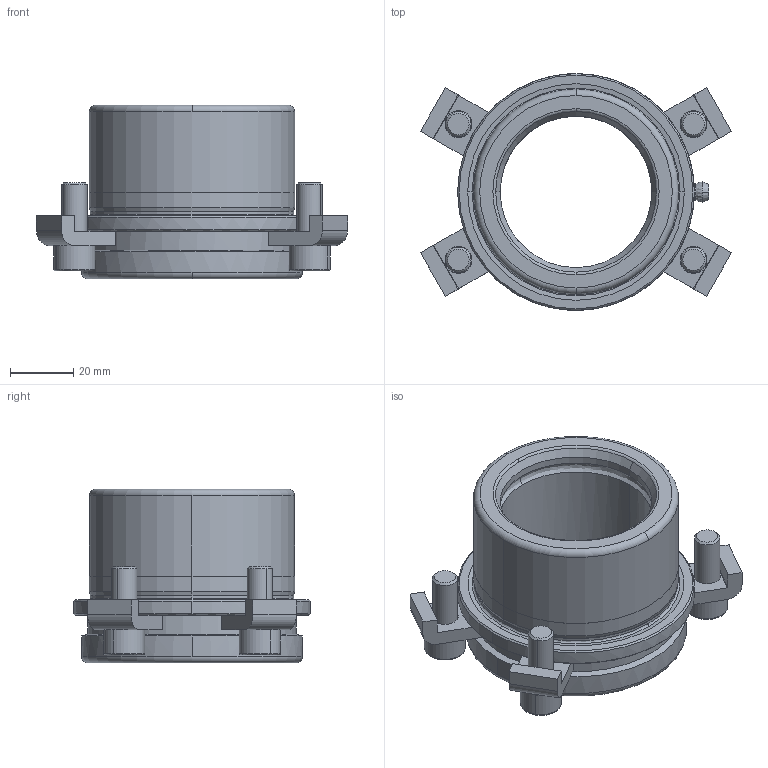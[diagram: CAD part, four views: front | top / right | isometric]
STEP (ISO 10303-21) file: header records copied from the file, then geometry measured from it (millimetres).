
FILE_DESCRIPTION((''),'2;1');
FILE_NAME('B10_048_020.stp','2008-11-06T09:02:30',(''),(''),'Mechanical Desktop 2009','Mechanical Desktop 2009',', , ');
FILE_SCHEMA(('CONFIG_CONTROL_DESIGN'));
Length unit declared in the file: millimetre
Products named in the file (2): Product; blmdl1
Assembly tree (1 placements, depth 2):
  Product
    blmdl1
Bounding box: 98.54 x 75 x 55 mm (x, y, z)
Volume: 104648.9 mm3; surface area: 34819.4 mm2
Topology: 10 solids, 10 shells, 202 faces, 510 edges, 337 vertices
Faces by surface type: plane 83, cylinder 61, cone 22, bspline 18, torus 18
Entity records: 7444 total; most frequent: CARTESIAN_POINT 2344, DIRECTION 1110, ORIENTED_EDGE 1012, EDGE_CURVE 506, AXIS2_PLACEMENT_3D 442, VERTEX_POINT 335, CIRCLE 256, VECTOR 226
